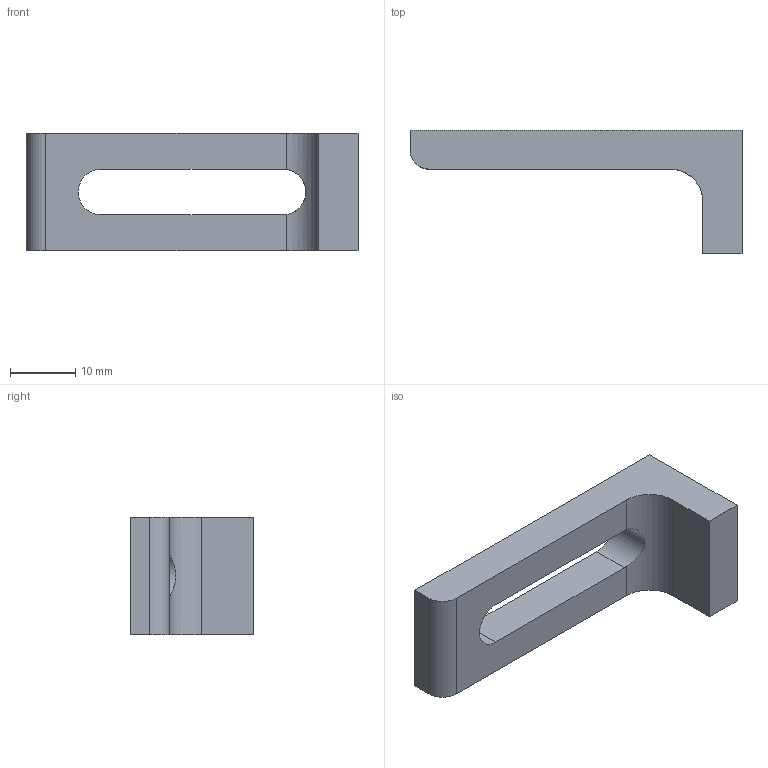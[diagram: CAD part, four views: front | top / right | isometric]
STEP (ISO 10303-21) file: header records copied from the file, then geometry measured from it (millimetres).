
FILE_DESCRIPTION (( 'STEP AP203' ), '1' );
FILE_NAME ('ACCF-2.step', '2019-05-09T08:53:39', ( '' ), ( '' ), 'SwSTEP 2.0', 'SolidWorks 2016', '' );
FILE_SCHEMA (( 'CONFIG_CONTROL_DESIGN' ));
Length unit declared in the file: millimetre
Products named in the file (1): ACCF-2
Bounding box: 51 x 19 x 18 mm (x, y, z)
Volume: 5563 mm3; surface area: 3236.9 mm2
Topology: 1 solids, 1 shells, 164 faces, 459 edges, 306 vertices
Faces by surface type: plane 160, cylinder 4
Entity records: 5284 total; most frequent: CARTESIAN_POINT 963, ORIENTED_EDGE 918, DIRECTION 797, EDGE_CURVE 459, VECTOR 449, LINE 449, VERTEX_POINT 306, EDGE_LOOP 175
